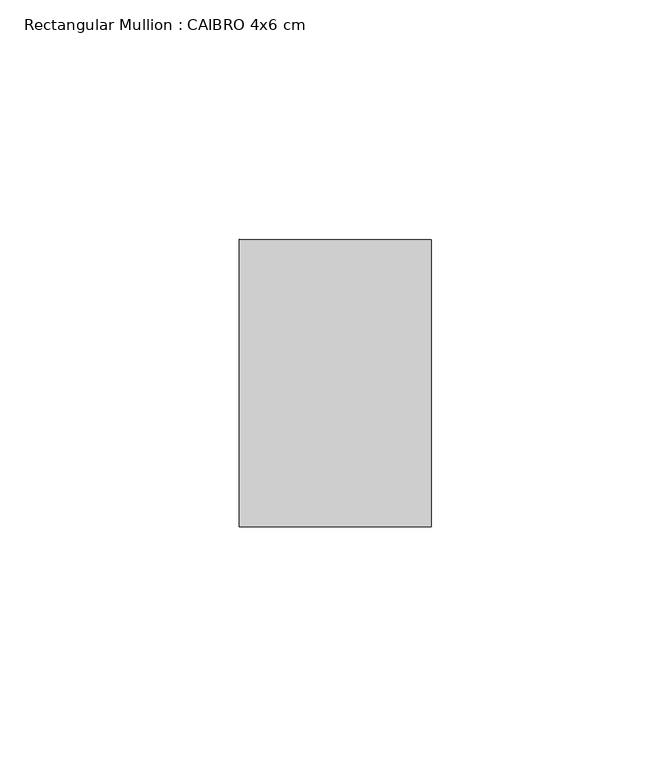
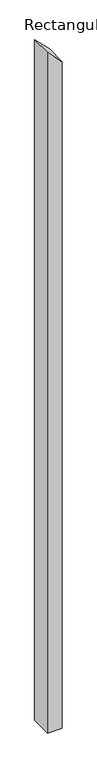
"""IFC4 building model written with IfcOpenShell, lengths in millimetres: member geometry, Rectangular Mullion : CAIBRO 4x6 cm."""

from ifc_helpers import new_model, si_unit, frame, origin, place, context, project, spatial, polyline, outline, extrude, source, transform, mapped, element, save


def rectangular_mullion_caibro_4x6_cm_4d9d155b(model_context):
    return source(origin(), model_context, "Body", "SweptSolid", [
        extrude(outline(polyline([(-77.109599, 20.0), (-36.6621022, -20.0), (-1993.5796646, -20.0), (-1993.5796646, 20.0), (-77.109599, 20.0)])), frame((0.0, 0.0, 0.0), z_axis=(0.0, 1.0, 0.0), x_axis=(0.0, 0.0, 1.0)), (0.0, 0.0, 1.0), 60.0),
    ])


if __name__ == "__main__":
    model = new_model("IFC4")
    model_context = context("Model", 3, world=origin())
    ifc_project = project(units=[si_unit("LENGTHUNIT", "METRE", prefix="MILLI")], contexts=[model_context])
    site = spatial("IfcSite", under=ifc_project)
    building = spatial("IfcBuilding", under=site)
    placement = place(None, origin())
    rectangular_mullion_caibro_4x6_cm_shape = rectangular_mullion_caibro_4x6_cm_4d9d155b(model_context)
    element("IfcMember", 1, ObjectType="Rectangular Mullion : CAIBRO 4x6 cm", at=placement, inside=building, context=model_context, shape_type="MappedRepresentation", body=[
        mapped(rectangular_mullion_caibro_4x6_cm_shape, transform((0.0, 0.0, 0.0), x_axis=(1.0, 0.0, 0.0), y_axis=(0.0, 1.0, 0.0), z_axis=(0.0, 0.0, 1.0))),
    ])
    save(model, "model.ifc")
